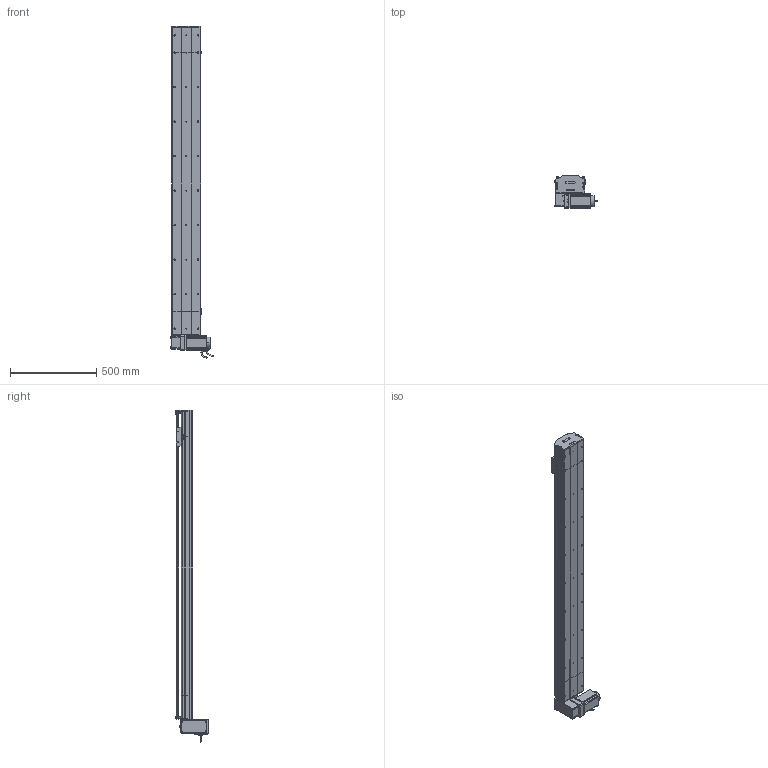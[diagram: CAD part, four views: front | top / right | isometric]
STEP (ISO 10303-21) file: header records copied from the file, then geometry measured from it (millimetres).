
FILE_DESCRIPTION (( 'STEP AP214' ), '1' );
FILE_NAME ('D17 TBN RU S1500.STEP', '2010-06-30T10:59:26', ( 'Christophe Gaillard' ), ( 'SGA' ), 'SwSTEP 2.0', 'SolidWorks 2010', '' );
FILE_SCHEMA (( 'AUTOMOTIVE_DESIGN' ));
Length unit declared in the file: millimetre
Products named in the file (40): guide D17; codeur 90BLDC125-640; corps 90BLDC125A-640; Conecteur2_Default; Conecteur_Default; Renvoi RU_Default; cache D17_Default; corp tail D17B+100_Default; Plaque racord D17_Default; Tail D17B+100_Default; tete d''axe poulie D17B; Rail D17B; plaque de  bout tail D17B_Default; vis M5 L5_Default; vis M5 L12_Default; poulie tail_Default; Couroie tail D17B_Default; couvercle D17B_Default; vis M5 L8 90°_Default; vis M5 L25_Default; plaque de  bout head D17B RU_Default; chariot D17 TBN; Chariot D17 TBN; vis M5 L70_Default; couvercle D17B head_Default; Head RU D17B_Default; couvercle D17B course L1500_Default; corpl head D17 _Default; Vis M5 L16-2_Default; corp D17B 1500_Default; Couroie+ rail D17 Course 1500 ; Arbre+rail head D17B; D17 TBN RU S1500; course 1500 D17B_Default; couroie head D17_Default; poulie head_Default; vis M5 L16_Default; cache arbre D17_Default; Moteur motionking 90BLDC125A-640; avant 90BLDC125A-640
Assembly tree (66 placements, depth 4):
  D17 TBN RU S1500
    chariot D17 TBN
      Chariot D17 TBN
      guide D17  x2
    course 1500 D17B_Default
      corp D17B 1500_Default
      couvercle D17B course L1500_Default
      Couroie+ rail D17 Course 1500 
    Head RU D17B_Default
      vis M5 L5_Default  x4
      vis M5 L25_Default  x2
      vis M5 L12_Default  x8
      Moteur motionking 90BLDC125A-640
        Conecteur2_Default
        corps 90BLDC125A-640
        codeur 90BLDC125-640
        avant 90BLDC125A-640
        Conecteur_Default
      plaque de  bout head D17B RU_Default
      vis M5 L70_Default  x4
      cache D17_Default  x2
      Vis M5 L16-2_Default  x4
      couroie head D17_Default
      vis M5 L16_Default  x2
      Arbre+rail head D17B
      cache arbre D17_Default
      couvercle D17B head_Default
      poulie head_Default
      corpl head D17 _Default
      Plaque racord D17_Default
      Renvoi RU_Default
    Tail D17B+100_Default
      couvercle D17B_Default
      vis M5 L8 90°_Default  x2
      Rail D17B
      vis M5 L12_Default  x4
      plaque de  bout tail D17B_Default
      vis M5 L25_Default  x2
      corp tail D17B+100_Default
      poulie tail_Default
      Couroie tail D17B_Default
      tete d''axe poulie D17B
Bounding box: 245.2 x 188.65 x 1923.95 mm (x, y, z)
Volume: 11589618.3 mm3; surface area: 3304250.3 mm2
Topology: 89 solids, 89 shells, 2571 faces, 6535 edges, 4214 vertices
Faces by surface type: plane 1537, cylinder 737, bspline 136, cone 80, torus 77, sphere 4
Entity records: 83085 total; most frequent: CARTESIAN_POINT 24821, ORIENTED_EDGE 10242, DIRECTION 9678, EDGE_CURVE 5121, LINE 3428, VECTOR 3428, VERTEX_POINT 3358, AXIS2_PLACEMENT_3D 3125
